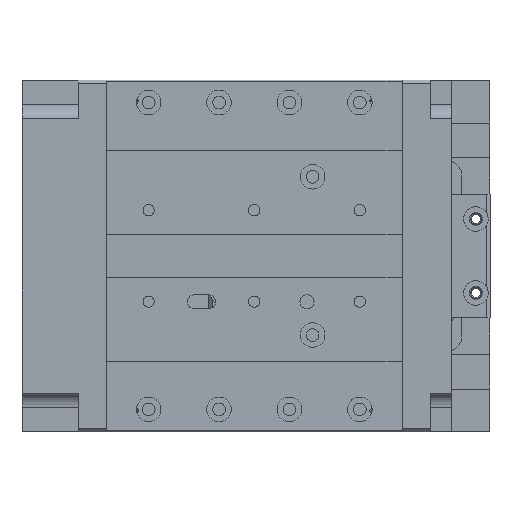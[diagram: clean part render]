
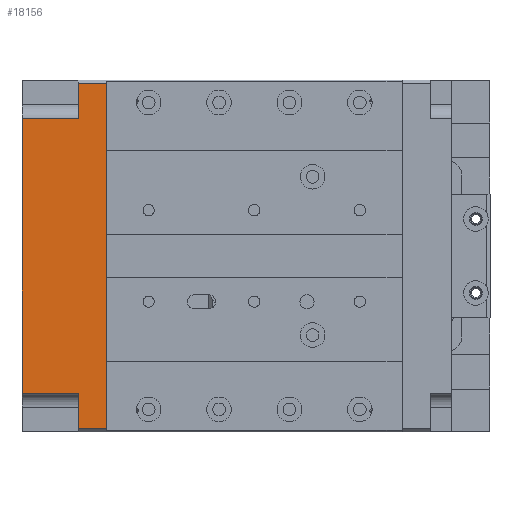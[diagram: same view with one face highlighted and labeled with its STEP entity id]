
A CAD part, top view. The second image highlights one B-rep face of the part: STEP entity #18156.
In plain terms, the highlighted planar face has unit normal (0, 0, 1) as drawn and (-1, 0, 0) by its records, which use the part's own axes.
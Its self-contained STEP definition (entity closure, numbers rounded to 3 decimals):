
#426 = LINE ( 'NONE', #15878, #9158 ) ;
#479 = EDGE_CURVE ( 'NONE', #18614, #18387, #4563, .T. ) ;
#1237 = VECTOR ( 'NONE', #4073, 1000. ) ;
#1446 = CARTESIAN_POINT ( 'NONE',  ( -6.4, -25., 0. ) ) ;
#1770 = EDGE_CURVE ( 'NONE', #8538, #9884, #6141, .T. ) ;
#1786 = EDGE_CURVE ( 'NONE', #9884, #8451, #426, .T. ) ;
#2007 = DIRECTION ( 'NONE',  ( 0., 0., 1. ) ) ;
#2522 = CARTESIAN_POINT ( 'NONE',  ( -6.4, 24.5, 0. ) ) ;
#2658 = VERTEX_POINT ( 'NONE', #2883 ) ;
#2883 = CARTESIAN_POINT ( 'NONE',  ( -6.4, 24.5, 4. ) ) ;
#3877 = AXIS2_PLACEMENT_3D ( 'NONE', #14774, #4364, #16520 ) ;
#4031 = VECTOR ( 'NONE', #5879, 1000. ) ;
#4073 = DIRECTION ( 'NONE',  ( 0., -1., 0. ) ) ;
#4364 = DIRECTION ( 'NONE',  ( 1., 0., 0. ) ) ;
#4561 = ORIENTED_EDGE ( 'NONE', *, *, #4636, .F. ) ;
#4563 = LINE ( 'NONE', #8792, #21957 ) ;
#4636 = EDGE_CURVE ( 'NONE', #15807, #8451, #14311, .T. ) ;
#4873 = EDGE_CURVE ( 'NONE', #18387, #7171, #10514, .T. ) ;
#5052 = VECTOR ( 'NONE', #13997, 1000. ) ;
#5154 = CARTESIAN_POINT ( 'NONE',  ( -6.4, -24.5, 4. ) ) ;
#5574 = CARTESIAN_POINT ( 'NONE',  ( -6.4, 19.5, 4. ) ) ;
#5879 = DIRECTION ( 'NONE',  ( 0., 0., -1. ) ) ;
#6141 = LINE ( 'NONE', #1446, #18338 ) ;
#6405 = CARTESIAN_POINT ( 'NONE',  ( -6.4, -19.5, 4. ) ) ;
#6440 = VECTOR ( 'NONE', #11722, 1000. ) ;
#6826 = ORIENTED_EDGE ( 'NONE', *, *, #1786, .T. ) ;
#7171 = VERTEX_POINT ( 'NONE', #16482 ) ;
#7391 = CARTESIAN_POINT ( 'NONE',  ( -6.4, -25., 12. ) ) ;
#7463 = ORIENTED_EDGE ( 'NONE', *, *, #479, .F. ) ;
#8451 = VERTEX_POINT ( 'NONE', #5154 ) ;
#8538 = VERTEX_POINT ( 'NONE', #2522 ) ;
#8792 = CARTESIAN_POINT ( 'NONE',  ( -6.4, 19.5, 4. ) ) ;
#9082 = DIRECTION ( 'NONE',  ( 0., -1., 0. ) ) ;
#9158 = VECTOR ( 'NONE', #2007, 1000. ) ;
#9229 = ORIENTED_EDGE ( 'NONE', *, *, #18737, .T. ) ;
#9443 = ORIENTED_EDGE ( 'NONE', *, *, #20330, .F. ) ;
#9884 = VERTEX_POINT ( 'NONE', #13726 ) ;
#10514 = LINE ( 'NONE', #7391, #1237 ) ;
#10561 = EDGE_CURVE ( 'NONE', #15807, #7171, #11094, .T. ) ;
#11094 = LINE ( 'NONE', #21269, #6440 ) ;
#11129 = FACE_OUTER_BOUND ( 'NONE', #11218, .T. ) ;
#11218 = EDGE_LOOP ( 'NONE', ( #4561, #21568, #18575, #7463, #9443, #9229, #20120, #6826 ) ) ;
#11262 = CARTESIAN_POINT ( 'NONE',  ( -6.4, 0., 4. ) ) ;
#11323 = LINE ( 'NONE', #17695, #19995 ) ;
#11722 = DIRECTION ( 'NONE',  ( 0., 0., 1. ) ) ;
#13726 = CARTESIAN_POINT ( 'NONE',  ( -6.4, -24.5, 0. ) ) ;
#13997 = DIRECTION ( 'NONE',  ( 0., -1., 0. ) ) ;
#14311 = LINE ( 'NONE', #11262, #5052 ) ;
#14774 = CARTESIAN_POINT ( 'NONE',  ( -6.4, -25., 12. ) ) ;
#15121 = DIRECTION ( 'NONE',  ( 0., -1., 0. ) ) ;
#15807 = VERTEX_POINT ( 'NONE', #6405 ) ;
#15878 = CARTESIAN_POINT ( 'NONE',  ( -6.4, -24.5, 12. ) ) ;
#16482 = CARTESIAN_POINT ( 'NONE',  ( -6.4, -19.5, 12. ) ) ;
#16520 = DIRECTION ( 'NONE',  ( 0., 0., -1. ) ) ;
#17165 = CARTESIAN_POINT ( 'NONE',  ( -6.4, 19.5, 12. ) ) ;
#17345 = LINE ( 'NONE', #19768, #4031 ) ;
#17695 = CARTESIAN_POINT ( 'NONE',  ( -6.4, 0., 4. ) ) ;
#18156 = ADVANCED_FACE ( 'NONE', ( #11129 ), #19947, .F. ) ;
#18338 = VECTOR ( 'NONE', #15121, 1000. ) ;
#18387 = VERTEX_POINT ( 'NONE', #17165 ) ;
#18575 = ORIENTED_EDGE ( 'NONE', *, *, #4873, .F. ) ;
#18614 = VERTEX_POINT ( 'NONE', #5574 ) ;
#18737 = EDGE_CURVE ( 'NONE', #2658, #8538, #17345, .T. ) ;
#19768 = CARTESIAN_POINT ( 'NONE',  ( -6.4, 24.5, 12. ) ) ;
#19947 = PLANE ( 'NONE',  #3877 ) ;
#19995 = VECTOR ( 'NONE', #9082, 1000. ) ;
#20120 = ORIENTED_EDGE ( 'NONE', *, *, #1770, .T. ) ;
#20330 = EDGE_CURVE ( 'NONE', #2658, #18614, #11323, .T. ) ;
#21269 = CARTESIAN_POINT ( 'NONE',  ( -6.4, -19.5, 4. ) ) ;
#21568 = ORIENTED_EDGE ( 'NONE', *, *, #10561, .T. ) ;
#21957 = VECTOR ( 'NONE', #21977, 1000. ) ;
#21977 = DIRECTION ( 'NONE',  ( 0., 0., 1. ) ) ;
